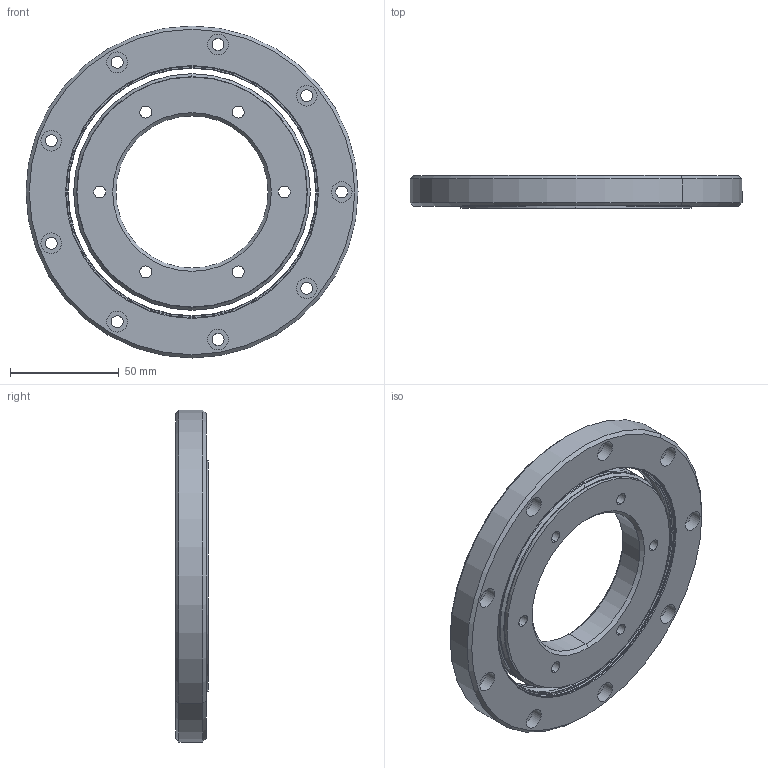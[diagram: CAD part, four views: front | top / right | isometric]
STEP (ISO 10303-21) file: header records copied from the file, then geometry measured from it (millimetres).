
FILE_DESCRIPTION (( 'STEP AP214' ), '1' );
FILE_NAME ('TTS2-070-154-15 Bearing Assembly.STEP', '2018-03-14T15:08:53', ( 'Admin' ), ( '' ), 'SwSTEP 2.0', 'SolidWorks 2018', '' );
FILE_SCHEMA (( 'AUTOMOTIVE_DESIGN' ));
Length unit declared in the file: inch
Products named in the file (3): TTS2 Outer Ring_TTS2-070-154-15; TTS2 Inner Ring_TTS2-070-154-15; TTS2-070-154-15 Bearing Assembly
Assembly tree (2 placements, depth 2):
  TTS2-070-154-15 Bearing Assembly
    TTS2 Inner Ring_TTS2-070-154-15
    TTS2 Outer Ring_TTS2-070-154-15
Bounding box: 152.4 x 15 x 152.4 mm (x, y, z)
Volume: 172699.5 mm3; surface area: 49366.3 mm2
Topology: 2 solids, 2 shells, 155 faces, 340 edges, 206 vertices
Faces by surface type: cylinder 84, cone 28, torus 22, plane 21
Entity records: 4498 total; most frequent: DIRECTION 888, CARTESIAN_POINT 706, ORIENTED_EDGE 680, AXIS2_PLACEMENT_3D 388, EDGE_CURVE 340, CIRCLE 228, EDGE_LOOP 206, VERTEX_POINT 206
